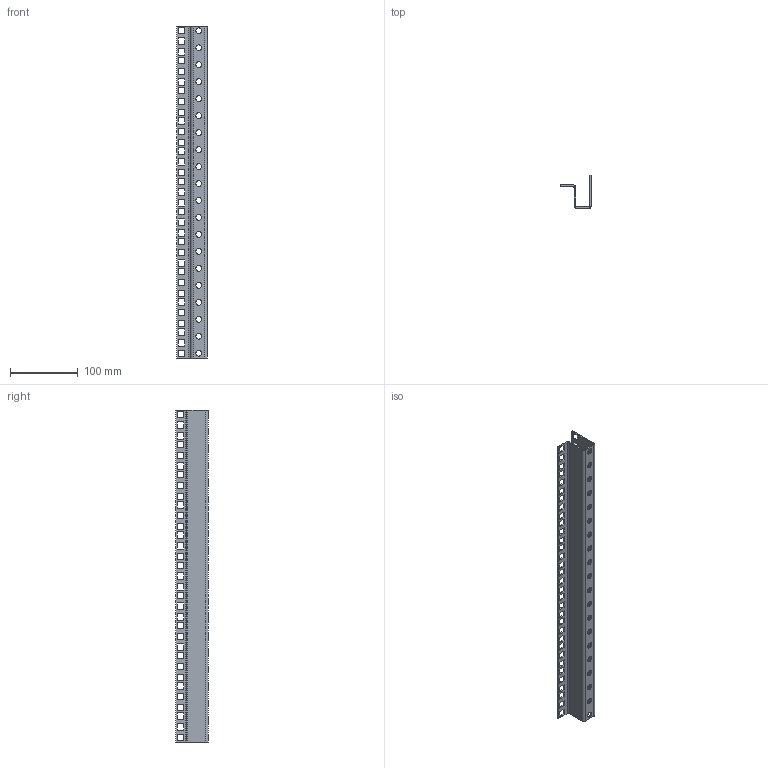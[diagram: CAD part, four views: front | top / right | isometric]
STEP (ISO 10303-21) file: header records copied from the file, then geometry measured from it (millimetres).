
FILE_DESCRIPTION (( 'STEP AP214' ), '1' );
FILE_NAME ('DNN11_V1.STEP', '2017-06-21T13:06:36', ( '' ), ( '' ), 'SwSTEP 2.0', 'SolidWorks 2014', '' );
FILE_SCHEMA (( 'AUTOMOTIVE_DESIGN' ));
Length unit declared in the file: millimetre
Products named in the file (1): DNN11_V1
Bounding box: 45 x 48.5 x 489 mm (x, y, z)
Volume: 103311.3 mm3; surface area: 111832 mm2
Topology: 1 solids, 1 shells, 314 faces, 912 edges, 600 vertices
Faces by surface type: plane 288, cylinder 26
Full cylindrical faces by diameter (mm): 8.5 x20
Entity records: 10632 total; most frequent: CARTESIAN_POINT 1807, ORIENTED_EDGE 1784, DIRECTION 1574, EDGE_CURVE 892, VECTOR 840, LINE 840, VERTEX_POINT 600, EDGE_LOOP 506
